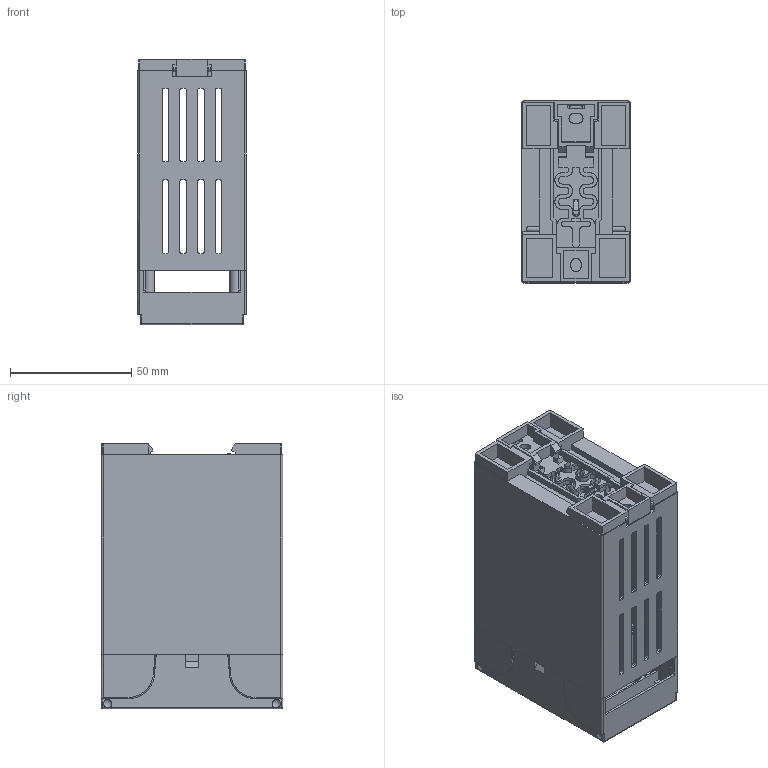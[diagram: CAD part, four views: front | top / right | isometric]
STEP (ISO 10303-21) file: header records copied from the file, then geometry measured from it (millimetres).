
FILE_DESCRIPTION(/* description */ ('AP-214 File'),/* implementation_level */ '2;1');
FILE_NAME(/* name */ 'produto',/* time_stamp */ '2014-08-14T16:56:32-03:00',/* author */ (''),/* organization */ (''),/* preprocessor_version */ 'ST-DEVELOPER v9',/* originating_system */ 'Delcam Exchange6.1.2005',/* authorisation */ '');
FILE_SCHEMA (('AUTOMOTIVE_DESIGN_CC2'));
Bounding box: 45 x 75 x 109.79 mm (x, y, z)
Surface area: 72944.5 mm2 (no closed solid volume)
Topology: 0 solids, 1154 shells, 1154 faces, 6441 edges, 6426 vertices
Faces by surface type: bspline 829, plane 208, cylinder 109, torus 4, sphere 4
Entity records: 77275 total; most frequent: CARTESIAN_POINT 45690, ORIENTED_EDGE 6453, EDGE_CURVE 6453, B_SPLINE_CURVE_WITH_KNOTS 6453, VERTEX_POINT 6453, EDGE_LOOP 1245, FACE_OUTER_BOUND 1154, STYLED_ITEM 1034
